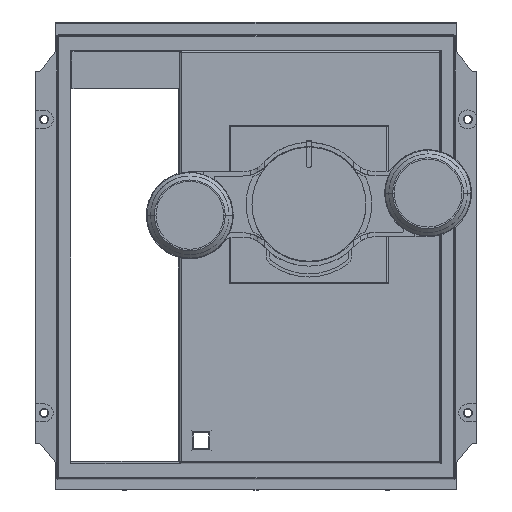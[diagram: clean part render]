
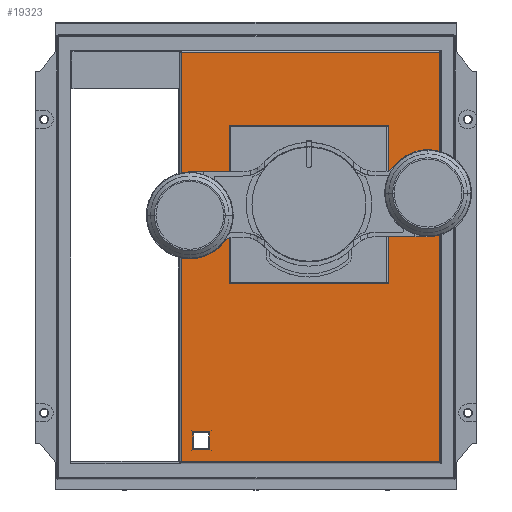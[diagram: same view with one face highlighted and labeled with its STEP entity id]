
A CAD part, top view. The second image highlights one B-rep face of the part: STEP entity #19323.
In plain terms, the highlighted planar face has unit normal (0, 0, 1).
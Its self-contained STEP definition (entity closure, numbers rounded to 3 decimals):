
#15333=DIRECTION('',(0.,1.,0.));
#15334=VECTOR('',#15333,193.2);
#15335=CARTESIAN_POINT('',(68.548,13.3,83.8));
#15336=LINE('',#15335,#15334);
#15667=DIRECTION('',(-1.,0.,0.));
#15668=VECTOR('',#15667,121.952);
#15669=CARTESIAN_POINT('',(190.5,13.3,83.8));
#15670=LINE('',#15669,#15668);
#15671=DIRECTION('',(1.,0.,0.));
#15672=VECTOR('',#15671,7.2);
#15673=CARTESIAN_POINT('',(74.4,26.8,83.8));
#15674=LINE('',#15673,#15672);
#15675=DIRECTION('',(0.,1.,0.));
#15676=VECTOR('',#15675,7.2);
#15677=CARTESIAN_POINT('',(74.4,19.6,83.8));
#15678=LINE('',#15677,#15676);
#15679=DIRECTION('',(-1.,0.,0.));
#15680=VECTOR('',#15679,7.2);
#15681=CARTESIAN_POINT('',(81.6,19.6,83.8));
#15682=LINE('',#15681,#15680);
#15683=DIRECTION('',(0.,-1.,0.));
#15684=VECTOR('',#15683,7.2);
#15685=CARTESIAN_POINT('',(81.6,26.8,83.8));
#15686=LINE('',#15685,#15684);
#15687=CARTESIAN_POINT('',(128.9,133.9,83.8));
#15688=DIRECTION('',(0.,0.,-1.));
#15689=DIRECTION('',(0.,-1.,0.));
#15690=AXIS2_PLACEMENT_3D('',#15687,#15688,#15689);
#15692=CARTESIAN_POINT('',(128.9,133.9,83.8));
#15693=DIRECTION('',(0.,0.,-1.));
#15694=DIRECTION('',(0.,1.,0.));
#15695=AXIS2_PLACEMENT_3D('',#15692,#15693,#15694);
#15697=DIRECTION('',(1.,0.,0.));
#15698=VECTOR('',#15697,121.952);
#15699=CARTESIAN_POINT('',(68.548,206.5,83.8));
#15700=LINE('',#15699,#15698);
#15732=DIRECTION('',(0.,-1.,0.));
#15733=VECTOR('',#15732,193.2);
#15734=CARTESIAN_POINT('',(190.5,206.5,83.8));
#15735=LINE('',#15734,#15733);
#17176=CARTESIAN_POINT('',(190.5,13.3,83.8));
#17177=VERTEX_POINT('',#17176);
#17213=CARTESIAN_POINT('',(68.548,13.3,83.8));
#17214=CARTESIAN_POINT('',(68.548,206.5,83.8));
#17215=VERTEX_POINT('',#17213);
#17216=VERTEX_POINT('',#17214);
#17217=CARTESIAN_POINT('',(190.5,206.5,83.8));
#17218=VERTEX_POINT('',#17217);
#17265=CARTESIAN_POINT('',(74.4,26.8,83.8));
#17266=CARTESIAN_POINT('',(81.6,26.8,83.8));
#17267=VERTEX_POINT('',#17265);
#17268=VERTEX_POINT('',#17266);
#17305=CARTESIAN_POINT('',(128.9,103.725,83.8));
#17306=CARTESIAN_POINT('',(128.9,164.075,83.8));
#17307=VERTEX_POINT('',#17305);
#17308=VERTEX_POINT('',#17306);
#17309=CARTESIAN_POINT('',(81.6,19.6,83.8));
#17310=VERTEX_POINT('',#17309);
#17311=CARTESIAN_POINT('',(74.4,19.6,83.8));
#17312=VERTEX_POINT('',#17311);
#19294=CARTESIAN_POINT('',(207.8,220.9,83.8));
#19295=DIRECTION('',(0.,0.,1.));
#19296=DIRECTION('',(-1.,0.,0.));
#19297=AXIS2_PLACEMENT_3D('',#19294,#19295,#19296);
#19298=PLANE('',#19297);
#19299=ORIENTED_EDGE('',*,*,#18782,.T.);
#19301=ORIENTED_EDGE('',*,*,#19300,.T.);
#19303=ORIENTED_EDGE('',*,*,#19302,.T.);
#19304=ORIENTED_EDGE('',*,*,#19286,.T.);
#19305=EDGE_LOOP('',(#19299,#19301,#19303,#19304));
#19306=FACE_OUTER_BOUND('',#19305,.F.);
#19308=ORIENTED_EDGE('',*,*,#19307,.F.);
#19310=ORIENTED_EDGE('',*,*,#19309,.F.);
#19312=ORIENTED_EDGE('',*,*,#19311,.F.);
#19314=ORIENTED_EDGE('',*,*,#19313,.F.);
#19315=EDGE_LOOP('',(#19308,#19310,#19312,#19314));
#19316=FACE_BOUND('',#19315,.F.);
#19318=ORIENTED_EDGE('',*,*,#19317,.F.);
#19320=ORIENTED_EDGE('',*,*,#19319,.F.);
#19321=EDGE_LOOP('',(#19318,#19320));
#19322=FACE_BOUND('',#19321,.F.);
#19323=ADVANCED_FACE('',(#19306,#19316,#19322),#19298,.T.);
#15691=CIRCLE('',#15690,30.175);
#15696=CIRCLE('',#15695,30.175);
#18782=EDGE_CURVE('',#17215,#17216,#15336,.T.);
#19286=EDGE_CURVE('',#17177,#17215,#15670,.T.);
#19300=EDGE_CURVE('',#17216,#17218,#15700,.T.);
#19302=EDGE_CURVE('',#17218,#17177,#15735,.T.);
#19307=EDGE_CURVE('',#17267,#17268,#15674,.T.);
#19309=EDGE_CURVE('',#17312,#17267,#15678,.T.);
#19311=EDGE_CURVE('',#17310,#17312,#15682,.T.);
#19313=EDGE_CURVE('',#17268,#17310,#15686,.T.);
#19317=EDGE_CURVE('',#17307,#17308,#15691,.T.);
#19319=EDGE_CURVE('',#17308,#17307,#15696,.T.);
